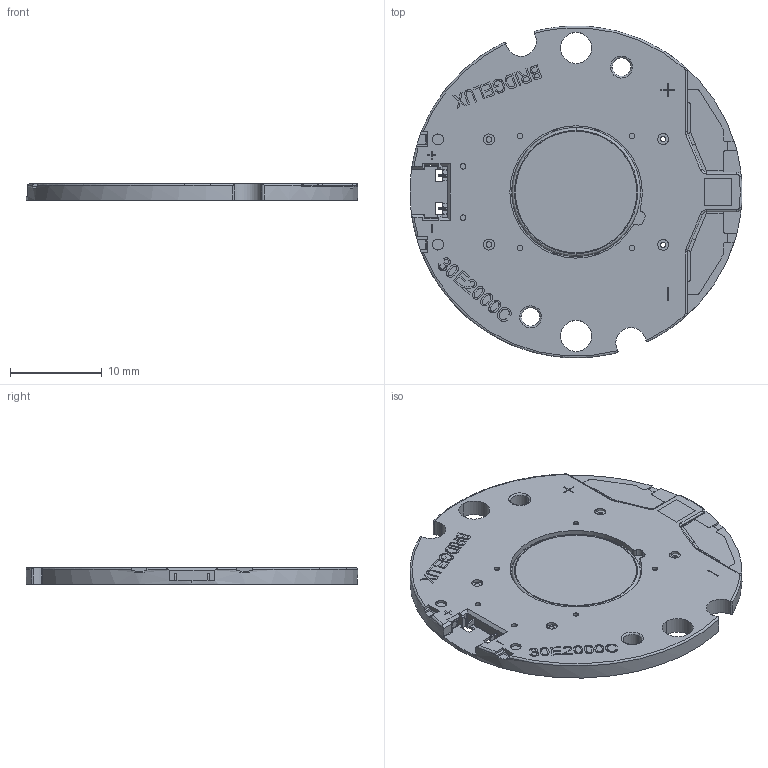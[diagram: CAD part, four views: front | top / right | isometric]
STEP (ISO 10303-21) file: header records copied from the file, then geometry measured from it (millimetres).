
FILE_DESCRIPTION (( 'STEP AP214' ), '1' );
FILE_NAME ('GEN8 Vero13.STEP', '2020-09-12T08:20:33', ( '' ), ( '' ), 'SwSTEP 2.0', 'SolidWorks 2018', '' );
FILE_SCHEMA (( 'AUTOMOTIVE_DESIGN' ));
Length unit declared in the file: millimetre
Products named in the file (1): GEN8 Vero13
Bounding box: 36.19 x 36.15 x 1.8 mm (x, y, z)
Volume: 1601.2 mm3; surface area: 3007.8 mm2
Topology: 14 solids, 18 shells, 1131 faces, 2983 edges, 1936 vertices
Faces by surface type: plane 562, cylinder 369, bspline 170, cone 20, torus 10
Entity records: 56089 total; most frequent: CARTESIAN_POINT 15981, ORIENTED_EDGE 5948, DIRECTION 5371, EDGE_CURVE 2974, VERTEX_POINT 1936, VECTOR 1805, LINE 1805, AXIS2_PLACEMENT_3D 1783
